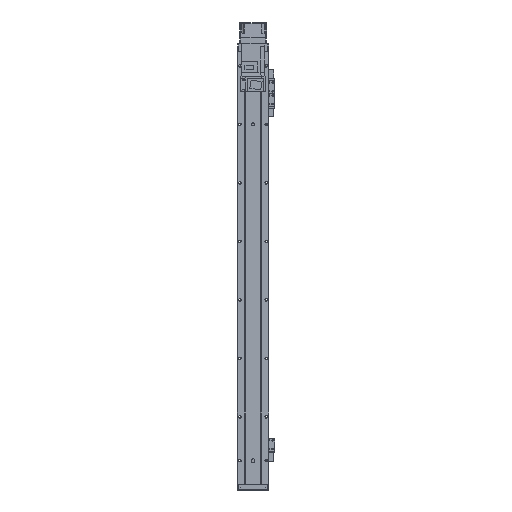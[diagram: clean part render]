
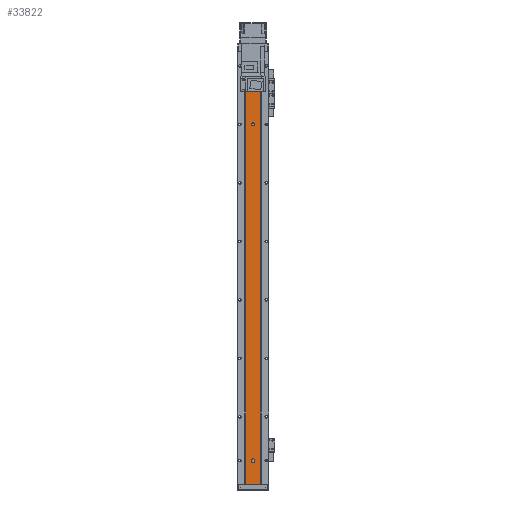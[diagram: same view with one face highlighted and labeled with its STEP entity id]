
A CAD part, front view. The second image highlights one B-rep face of the part: STEP entity #33822.
In plain terms, the highlighted planar face has unit normal (0, -1, 0).
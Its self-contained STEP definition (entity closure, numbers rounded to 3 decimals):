
#153 = ORIENTED_EDGE ( 'NONE', *, *, #28189, .F. ) ;
#570 = VERTEX_POINT ( 'NONE', #15975 ) ;
#807 = CARTESIAN_POINT ( 'NONE',  ( 0., 1.5, -699. ) ) ;
#1483 = DIRECTION ( 'NONE',  ( 0., 0., 1. ) ) ;
#1679 = ORIENTED_EDGE ( 'NONE', *, *, #4322, .F. ) ;
#1783 = VERTEX_POINT ( 'NONE', #36177 ) ;
#1817 = CARTESIAN_POINT ( 'NONE',  ( -2.5, 1.5, -125. ) ) ;
#2376 = DIRECTION ( 'NONE',  ( 1., 0., 0. ) ) ;
#2635 = ORIENTED_EDGE ( 'NONE', *, *, #20270, .F. ) ;
#3457 = EDGE_CURVE ( 'NONE', #27211, #10276, #15106, .T. ) ;
#3814 = VERTEX_POINT ( 'NONE', #8945 ) ;
#4240 = CARTESIAN_POINT ( 'NONE',  ( -2.5, 1.5, -699. ) ) ;
#4322 = EDGE_CURVE ( 'NONE', #570, #34099, #24515, .T. ) ;
#5329 = FACE_BOUND ( 'NONE', #31821, .T. ) ;
#5426 = VERTEX_POINT ( 'NONE', #33202 ) ;
#6054 = CIRCLE ( 'NONE', #21708, 2.5 ) ;
#6860 = VECTOR ( 'NONE', #1483, 1000. ) ;
#7133 = PLANE ( 'NONE',  #8217 ) ;
#7143 = DIRECTION ( 'NONE',  ( 0., 0., 1. ) ) ;
#7208 = FACE_BOUND ( 'NONE', #12575, .T. ) ;
#7560 = CARTESIAN_POINT ( 'NONE',  ( 0., 1.5, -125. ) ) ;
#8217 = AXIS2_PLACEMENT_3D ( 'NONE', #28371, #31342, #13236 ) ;
#8237 = CARTESIAN_POINT ( 'NONE',  ( 0., 1.5, -701. ) ) ;
#8613 = LINE ( 'NONE', #17890, #29971 ) ;
#8687 = CARTESIAN_POINT ( 'NONE',  ( 2.5, 1.5, -25. ) ) ;
#8945 = CARTESIAN_POINT ( 'NONE',  ( 2.5, 1.5, -699. ) ) ;
#9135 = EDGE_CURVE ( 'NONE', #3814, #27528, #37333, .T. ) ;
#9347 = DIRECTION ( 'NONE',  ( 1., 0., 0. ) ) ;
#9494 = DIRECTION ( 'NONE',  ( 1., 0., 0. ) ) ;
#10276 = VERTEX_POINT ( 'NONE', #16485 ) ;
#10292 = CARTESIAN_POINT ( 'NONE',  ( 2.5, 1.5, -125. ) ) ;
#10313 = CARTESIAN_POINT ( 'NONE',  ( -12.293, 1.5, 0. ) ) ;
#10464 = CARTESIAN_POINT ( 'NONE',  ( 2.5, 1.5, -740. ) ) ;
#11029 = ORIENTED_EDGE ( 'NONE', *, *, #34066, .T. ) ;
#11260 = EDGE_CURVE ( 'NONE', #5426, #10276, #30879, .T. ) ;
#11261 = LINE ( 'NONE', #20372, #38703 ) ;
#11449 = VERTEX_POINT ( 'NONE', #26032 ) ;
#12421 = ORIENTED_EDGE ( 'NONE', *, *, #3457, .F. ) ;
#12575 = EDGE_LOOP ( 'NONE', ( #153, #22197, #23861, #2635 ) ) ;
#12585 = EDGE_CURVE ( 'NONE', #30168, #16547, #21036, .T. ) ;
#12767 = DIRECTION ( 'NONE',  ( 0., -1., 0. ) ) ;
#12841 = CARTESIAN_POINT ( 'NONE',  ( 0., 1.5, -125. ) ) ;
#13116 = CARTESIAN_POINT ( 'NONE',  ( 12.293, 1.5, -740. ) ) ;
#13236 = DIRECTION ( 'NONE',  ( 1., 0., 0. ) ) ;
#13542 = CARTESIAN_POINT ( 'NONE',  ( -12.293, 1.5, -740. ) ) ;
#13677 = DIRECTION ( 'NONE',  ( 0., 0., 1. ) ) ;
#14474 = EDGE_CURVE ( 'NONE', #27528, #11449, #11261, .T. ) ;
#14782 = DIRECTION ( 'NONE',  ( 1., 0., 0. ) ) ;
#14840 = CARTESIAN_POINT ( 'NONE',  ( 0., 1.5, -25. ) ) ;
#15106 = LINE ( 'NONE', #15373, #31169 ) ;
#15207 = CIRCLE ( 'NONE', #30252, 2.5 ) ;
#15373 = CARTESIAN_POINT ( 'NONE',  ( 12.293, 1.5, 0. ) ) ;
#15504 = DIRECTION ( 'NONE',  ( 1., 0., 0. ) ) ;
#15920 = DIRECTION ( 'NONE',  ( 0., -1., 0. ) ) ;
#15975 = CARTESIAN_POINT ( 'NONE',  ( -2.5, 1.5, -25. ) ) ;
#16485 = CARTESIAN_POINT ( 'NONE',  ( 12.293, 1.5, 0. ) ) ;
#16547 = VERTEX_POINT ( 'NONE', #10292 ) ;
#17323 = AXIS2_PLACEMENT_3D ( 'NONE', #12841, #15920, #9494 ) ;
#17890 = CARTESIAN_POINT ( 'NONE',  ( 12.293, 1.5, -740. ) ) ;
#18017 = CARTESIAN_POINT ( 'NONE',  ( 2.5, 1.5, -701. ) ) ;
#19419 = CIRCLE ( 'NONE', #17323, 2.5 ) ;
#20270 = EDGE_CURVE ( 'NONE', #38245, #3814, #35255, .T. ) ;
#20366 = EDGE_CURVE ( 'NONE', #1783, #27211, #34758, .T. ) ;
#20372 = CARTESIAN_POINT ( 'NONE',  ( -2.5, 1.5, -740. ) ) ;
#20448 = ORIENTED_EDGE ( 'NONE', *, *, #37777, .F. ) ;
#21036 = CIRCLE ( 'NONE', #32199, 2.5 ) ;
#21105 = VECTOR ( 'NONE', #13677, 1000. ) ;
#21615 = EDGE_LOOP ( 'NONE', ( #12421, #28196, #11029, #35789 ) ) ;
#21708 = AXIS2_PLACEMENT_3D ( 'NONE', #8237, #22896, #25966 ) ;
#21899 = DIRECTION ( 'NONE',  ( 0., -1., 0. ) ) ;
#22042 = DIRECTION ( 'NONE',  ( 0., -1., 0. ) ) ;
#22197 = ORIENTED_EDGE ( 'NONE', *, *, #14474, .F. ) ;
#22896 = DIRECTION ( 'NONE',  ( 0., -1., 0. ) ) ;
#22910 = VECTOR ( 'NONE', #7143, 1000. ) ;
#23861 = ORIENTED_EDGE ( 'NONE', *, *, #9135, .F. ) ;
#24515 = CIRCLE ( 'NONE', #29921, 2.5 ) ;
#24874 = FACE_BOUND ( 'NONE', #26901, .T. ) ;
#25966 = DIRECTION ( 'NONE',  ( 1., 0., 0. ) ) ;
#26032 = CARTESIAN_POINT ( 'NONE',  ( -2.5, 1.5, -701. ) ) ;
#26581 = DIRECTION ( 'NONE',  ( 1., 0., 0. ) ) ;
#26901 = EDGE_LOOP ( 'NONE', ( #20448, #28307 ) ) ;
#27211 = VERTEX_POINT ( 'NONE', #10313 ) ;
#27435 = EDGE_CURVE ( 'NONE', #34099, #570, #15207, .T. ) ;
#27528 = VERTEX_POINT ( 'NONE', #4240 ) ;
#27786 = CARTESIAN_POINT ( 'NONE',  ( 0., 1.5, -25. ) ) ;
#28116 = DIRECTION ( 'NONE',  ( 1., 0., 0. ) ) ;
#28189 = EDGE_CURVE ( 'NONE', #11449, #38245, #6054, .T. ) ;
#28196 = ORIENTED_EDGE ( 'NONE', *, *, #20366, .F. ) ;
#28307 = ORIENTED_EDGE ( 'NONE', *, *, #12585, .F. ) ;
#28371 = CARTESIAN_POINT ( 'NONE',  ( 12.293, 1.5, -740. ) ) ;
#28807 = DIRECTION ( 'NONE',  ( 0., -1., 0. ) ) ;
#28960 = DIRECTION ( 'NONE',  ( 0., 0., -1. ) ) ;
#29921 = AXIS2_PLACEMENT_3D ( 'NONE', #27786, #12767, #14782 ) ;
#29971 = VECTOR ( 'NONE', #2376, 1000. ) ;
#30168 = VERTEX_POINT ( 'NONE', #1817 ) ;
#30252 = AXIS2_PLACEMENT_3D ( 'NONE', #14840, #21899, #15504 ) ;
#30879 = LINE ( 'NONE', #13116, #22910 ) ;
#31169 = VECTOR ( 'NONE', #9347, 1000. ) ;
#31342 = DIRECTION ( 'NONE',  ( 0., -1., 0. ) ) ;
#31821 = EDGE_LOOP ( 'NONE', ( #33632, #1679 ) ) ;
#32199 = AXIS2_PLACEMENT_3D ( 'NONE', #7560, #28807, #26581 ) ;
#33093 = AXIS2_PLACEMENT_3D ( 'NONE', #807, #22042, #28116 ) ;
#33202 = CARTESIAN_POINT ( 'NONE',  ( 12.293, 1.5, -740. ) ) ;
#33632 = ORIENTED_EDGE ( 'NONE', *, *, #27435, .F. ) ;
#33822 = ADVANCED_FACE ( 'NONE', ( #7208, #24874, #5329, #37078 ), #7133, .T. ) ;
#34066 = EDGE_CURVE ( 'NONE', #1783, #5426, #8613, .T. ) ;
#34099 = VERTEX_POINT ( 'NONE', #8687 ) ;
#34758 = LINE ( 'NONE', #13542, #21105 ) ;
#35255 = LINE ( 'NONE', #10464, #6860 ) ;
#35789 = ORIENTED_EDGE ( 'NONE', *, *, #11260, .T. ) ;
#36177 = CARTESIAN_POINT ( 'NONE',  ( -12.293, 1.5, -740. ) ) ;
#37078 = FACE_OUTER_BOUND ( 'NONE', #21615, .T. ) ;
#37333 = CIRCLE ( 'NONE', #33093, 2.5 ) ;
#37777 = EDGE_CURVE ( 'NONE', #16547, #30168, #19419, .T. ) ;
#38245 = VERTEX_POINT ( 'NONE', #18017 ) ;
#38703 = VECTOR ( 'NONE', #28960, 1000. ) ;
